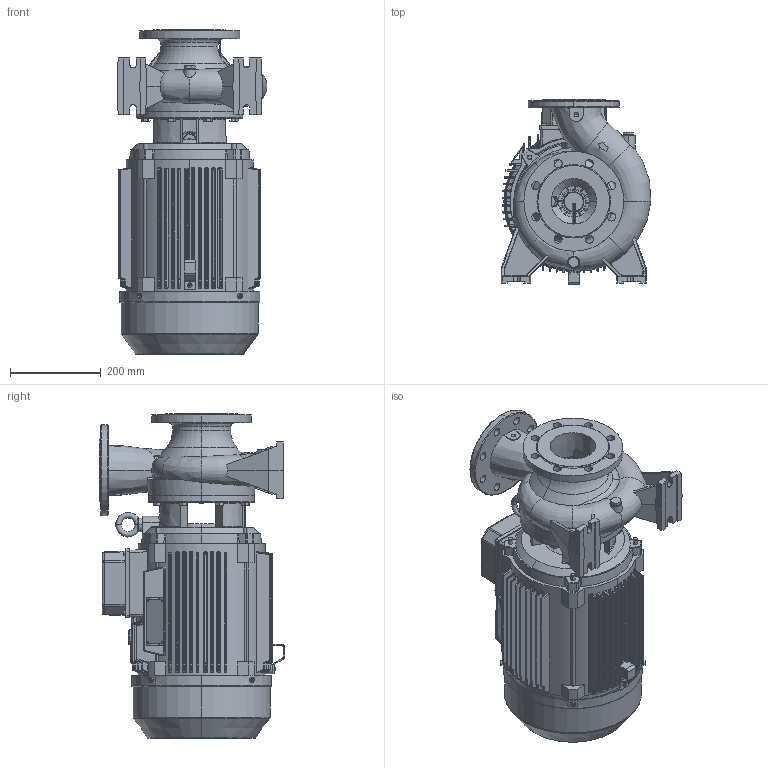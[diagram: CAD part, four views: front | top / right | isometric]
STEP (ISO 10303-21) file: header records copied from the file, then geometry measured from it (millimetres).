
FILE_DESCRIPTION (( 'STEP AP203' ), '1' );
FILE_NAME ('CN 80-160B.STEP', '2020-03-05T15:54:31', ( '' ), ( '' ), 'SwSTEP 2.0', 'SolidWorks 2019', '' );
FILE_SCHEMA (( 'CONFIG_CONTROL_DESIGN' ));
Products named in the file (2): CN 80-160B
Bounding box: 329.87 x 407.92 x 715.5 mm (x, y, z)
Surface area: 1870896.6 mm2 (no closed solid volume)
Topology: 0 solids, 57 shells, 2670 faces, 8540 edges, 5767 vertices
Faces by surface type: plane 1085, bspline 673, cylinder 556, cone 243, torus 103, sphere 10
Entity records: 150127 total; most frequent: CARTESIAN_POINT 83365, ORIENTED_EDGE 13944, DIRECTION 11599, EDGE_CURVE 8514, VERTEX_POINT 5767, LINE 4303, VECTOR 4303, AXIS2_PLACEMENT_3D 3648
